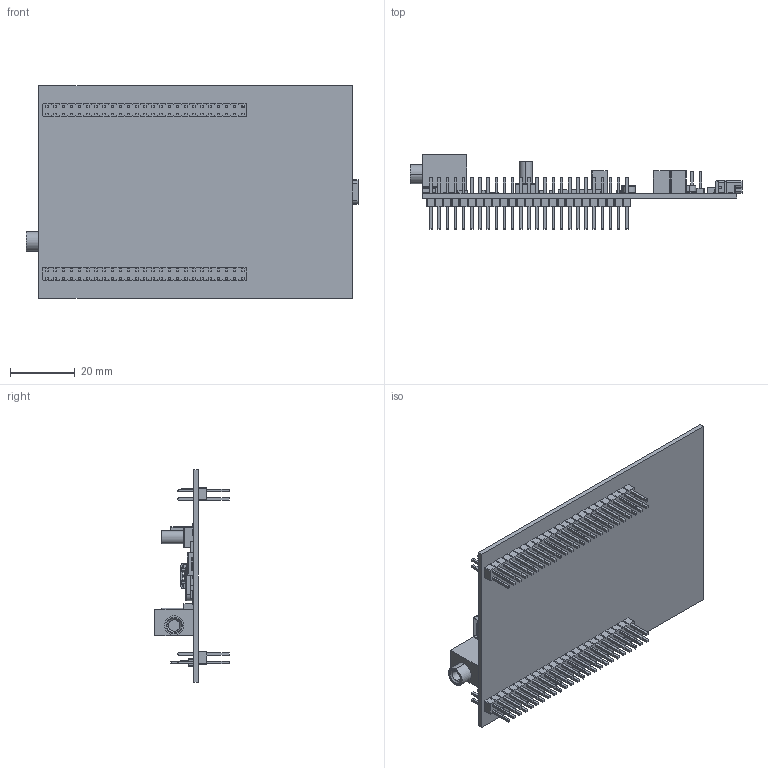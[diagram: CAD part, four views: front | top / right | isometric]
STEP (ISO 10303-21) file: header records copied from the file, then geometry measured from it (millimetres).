
FILE_DESCRIPTION (( 'STEP AP203' ), '1' );
FILE_NAME ('stm30f4.STEP', '2016-01-31T14:04:33', ( '' ), ( '' ), 'SwSTEP 2.0', 'SolidWorks 2015', '' );
FILE_SCHEMA (( 'CONFIG_CONTROL_DESIGN' ));
Length unit declared in the file: millimetre
Products named in the file (1): stm30f4
Bounding box: 102.57 x 23 x 65.5 mm (x, y, z)
Volume: 14254.4 mm3; surface area: 20383.7 mm2
Topology: 2 solids, 3 shells, 2535 faces, 6342 edges, 4041 vertices
Faces by surface type: plane 2361, cylinder 128, bspline 18, cone 14, torus 14
Entity records: 74294 total; most frequent: CARTESIAN_POINT 13753, ORIENTED_EDGE 12684, DIRECTION 11597, EDGE_CURVE 6342, LINE 6011, VECTOR 6011, VERTEX_POINT 4041, AXIS2_PLACEMENT_3D 2793
